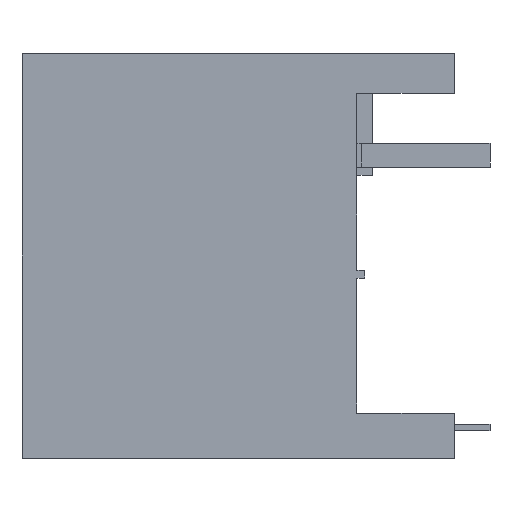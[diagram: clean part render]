
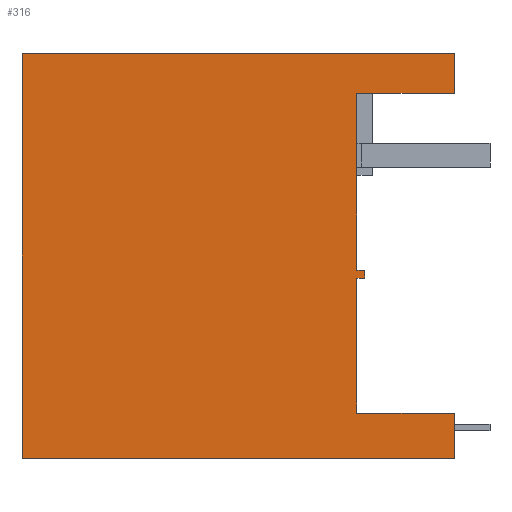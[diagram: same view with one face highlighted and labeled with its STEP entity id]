
A CAD part, left-side view. The second image highlights one B-rep face of the part: STEP entity #316.
In plain terms, the highlighted planar face has unit normal (-1, 0, 0).
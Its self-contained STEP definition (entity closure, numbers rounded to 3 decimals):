
#14 = ORIENTED_EDGE ( 'NONE', *, *, #29, .T. ) ;
#29 = EDGE_CURVE ( 'NONE', #558, #2441, #1000, .T. ) ;
#67 = ORIENTED_EDGE ( 'NONE', *, *, #2225, .T. ) ;
#80 = EDGE_CURVE ( 'NONE', #184, #173, #1592, .T. ) ;
#105 = ORIENTED_EDGE ( 'NONE', *, *, #131, .F. ) ;
#131 = EDGE_CURVE ( 'NONE', #155, #2611, #2121, .T. ) ;
#155 = VERTEX_POINT ( 'NONE', #2405 ) ;
#173 = VERTEX_POINT ( 'NONE', #2573 ) ;
#184 = VERTEX_POINT ( 'NONE', #2616 ) ;
#192 = ORIENTED_EDGE ( 'NONE', *, *, #218, .F. ) ;
#218 = EDGE_CURVE ( 'NONE', #241, #155, #2789, .T. ) ;
#241 = VERTEX_POINT ( 'NONE', #2902 ) ;
#284 = ORIENTED_EDGE ( 'NONE', *, *, #312, .T. ) ;
#312 = EDGE_CURVE ( 'NONE', #241, #545, #1680, .T. ) ;
#316 = ADVANCED_FACE ( 'NONE', ( #1796 ), #1812, .F. ) ;
#379 = ORIENTED_EDGE ( 'NONE', *, *, #1012, .T. ) ;
#422 = ORIENTED_EDGE ( 'NONE', *, *, #458, .F. ) ;
#458 = EDGE_CURVE ( 'NONE', #173, #694, #1126, .T. ) ;
#500 = ORIENTED_EDGE ( 'NONE', *, *, #80, .F. ) ;
#516 = EDGE_LOOP ( 'NONE', ( #379, #422, #500, #549, #650, #850, #1618, #14, #67, #105, #192, #284 ) ) ;
#545 = VERTEX_POINT ( 'NONE', #1795 ) ;
#549 = ORIENTED_EDGE ( 'NONE', *, *, #586, .F. ) ;
#558 = VERTEX_POINT ( 'NONE', #1948 ) ;
#586 = EDGE_CURVE ( 'NONE', #606, #184, #2170, .T. ) ;
#592 = VERTEX_POINT ( 'NONE', #2261 ) ;
#606 = VERTEX_POINT ( 'NONE', #2463 ) ;
#624 = EDGE_CURVE ( 'NONE', #558, #592, #2569, .T. ) ;
#650 = ORIENTED_EDGE ( 'NONE', *, *, #687, .F. ) ;
#687 = EDGE_CURVE ( 'NONE', #708, #606, #2832, .T. ) ;
#694 = VERTEX_POINT ( 'NONE', #2864 ) ;
#708 = VERTEX_POINT ( 'NONE', #2933 ) ;
#850 = ORIENTED_EDGE ( 'NONE', *, *, #1174, .T. ) ;
#949 = LINE ( 'NONE', #950, #951 ) ;
#950 = CARTESIAN_POINT ( 'NONE',  ( -25.5, 0., -25.5 ) ) ;
#951 = VECTOR ( 'NONE', #952, 1000. ) ;
#952 = DIRECTION ( 'NONE',  ( 0., 0., 1. ) ) ;
#1000 = LINE ( 'NONE', #1001, #1002 ) ;
#1001 = CARTESIAN_POINT ( 'NONE',  ( -25.5, 12.3, 20.5 ) ) ;
#1002 = VECTOR ( 'NONE', #1003, 1000. ) ;
#1003 = DIRECTION ( 'NONE',  ( 0., -1., 0. ) ) ;
#1012 = EDGE_CURVE ( 'NONE', #545, #694, #1613, .T. ) ;
#1039 = CARTESIAN_POINT ( 'NONE',  ( -25.5, 0., 20.5 ) ) ;
#1126 = LINE ( 'NONE', #1127, #1128 ) ;
#1127 = CARTESIAN_POINT ( 'NONE',  ( -25.5, 12.3, -19.8 ) ) ;
#1128 = VECTOR ( 'NONE', #1129, 1000. ) ;
#1129 = DIRECTION ( 'NONE',  ( 0., -1., 0. ) ) ;
#1142 = CARTESIAN_POINT ( 'NONE',  ( -25.5, 0., 25.5 ) ) ;
#1174 = EDGE_CURVE ( 'NONE', #708, #592, #1817, .T. ) ;
#1592 = LINE ( 'NONE', #1593, #1594 ) ;
#1593 = CARTESIAN_POINT ( 'NONE',  ( -25.5, 12.3, 20.5 ) ) ;
#1594 = VECTOR ( 'NONE', #1595, 1000. ) ;
#1595 = DIRECTION ( 'NONE',  ( 0., 0., -1. ) ) ;
#1613 = LINE ( 'NONE', #1614, #1615 ) ;
#1614 = CARTESIAN_POINT ( 'NONE',  ( -25.5, 0., -25.5 ) ) ;
#1615 = VECTOR ( 'NONE', #1616, 1000. ) ;
#1616 = DIRECTION ( 'NONE',  ( 0., 0., 1. ) ) ;
#1618 = ORIENTED_EDGE ( 'NONE', *, *, #624, .F. ) ;
#1680 = LINE ( 'NONE', #1681, #1682 ) ;
#1681 = CARTESIAN_POINT ( 'NONE',  ( -25.5, 54.5, -25.5 ) ) ;
#1682 = VECTOR ( 'NONE', #1683, 1000. ) ;
#1683 = DIRECTION ( 'NONE',  ( 0., -1., 0. ) ) ;
#1795 = CARTESIAN_POINT ( 'NONE',  ( -25.5, 0., -25.5 ) ) ;
#1796 = FACE_OUTER_BOUND ( 'NONE', #516, .T. ) ;
#1812 = PLANE ( 'NONE',  #1813 ) ;
#1813 = AXIS2_PLACEMENT_3D ( 'NONE', #1814, #1815, #1816 ) ;
#1814 = CARTESIAN_POINT ( 'NONE',  ( -25.5, 54.5, -25.5 ) ) ;
#1815 = DIRECTION ( 'NONE',  ( 1., 0., 0. ) ) ;
#1816 = DIRECTION ( 'NONE',  ( 0., 0., -1. ) ) ;
#1817 = LINE ( 'NONE', #1818, #1819 ) ;
#1818 = CARTESIAN_POINT ( 'NONE',  ( -25.5, 11.3, -1.8 ) ) ;
#1819 = VECTOR ( 'NONE', #1820, 1000. ) ;
#1820 = DIRECTION ( 'NONE',  ( 0., 1., 0. ) ) ;
#1948 = CARTESIAN_POINT ( 'NONE',  ( -25.5, 12.3, 20.5 ) ) ;
#2121 = LINE ( 'NONE', #2122, #2123 ) ;
#2122 = CARTESIAN_POINT ( 'NONE',  ( -25.5, 54.5, 25.5 ) ) ;
#2123 = VECTOR ( 'NONE', #2124, 1000. ) ;
#2124 = DIRECTION ( 'NONE',  ( 0., -1., 0. ) ) ;
#2170 = LINE ( 'NONE', #2171, #2172 ) ;
#2171 = CARTESIAN_POINT ( 'NONE',  ( -25.5, 11.3, -2.8 ) ) ;
#2172 = VECTOR ( 'NONE', #2173, 1000. ) ;
#2173 = DIRECTION ( 'NONE',  ( 0., 1., 0. ) ) ;
#2225 = EDGE_CURVE ( 'NONE', #2441, #2611, #949, .T. ) ;
#2261 = CARTESIAN_POINT ( 'NONE',  ( -25.5, 12.3, -1.8 ) ) ;
#2405 = CARTESIAN_POINT ( 'NONE',  ( -25.5, 54.5, 25.5 ) ) ;
#2441 = VERTEX_POINT ( 'NONE', #1039 ) ;
#2463 = CARTESIAN_POINT ( 'NONE',  ( -25.5, 11.3, -2.8 ) ) ;
#2569 = LINE ( 'NONE', #2570, #2571 ) ;
#2570 = CARTESIAN_POINT ( 'NONE',  ( -25.5, 12.3, 20.5 ) ) ;
#2571 = VECTOR ( 'NONE', #2572, 1000. ) ;
#2572 = DIRECTION ( 'NONE',  ( 0., 0., -1. ) ) ;
#2573 = CARTESIAN_POINT ( 'NONE',  ( -25.5, 12.3, -19.8 ) ) ;
#2611 = VERTEX_POINT ( 'NONE', #1142 ) ;
#2616 = CARTESIAN_POINT ( 'NONE',  ( -25.5, 12.3, -2.8 ) ) ;
#2789 = LINE ( 'NONE', #2790, #2791 ) ;
#2790 = CARTESIAN_POINT ( 'NONE',  ( -25.5, 54.5, -25.5 ) ) ;
#2791 = VECTOR ( 'NONE', #2792, 1000. ) ;
#2792 = DIRECTION ( 'NONE',  ( 0., 0., 1. ) ) ;
#2832 = LINE ( 'NONE', #2833, #2834 ) ;
#2833 = CARTESIAN_POINT ( 'NONE',  ( -25.5, 11.3, -1.8 ) ) ;
#2834 = VECTOR ( 'NONE', #2835, 1000. ) ;
#2835 = DIRECTION ( 'NONE',  ( 0., 0., -1. ) ) ;
#2864 = CARTESIAN_POINT ( 'NONE',  ( -25.5, 0., -19.8 ) ) ;
#2902 = CARTESIAN_POINT ( 'NONE',  ( -25.5, 54.5, -25.5 ) ) ;
#2933 = CARTESIAN_POINT ( 'NONE',  ( -25.5, 11.3, -1.8 ) ) ;
